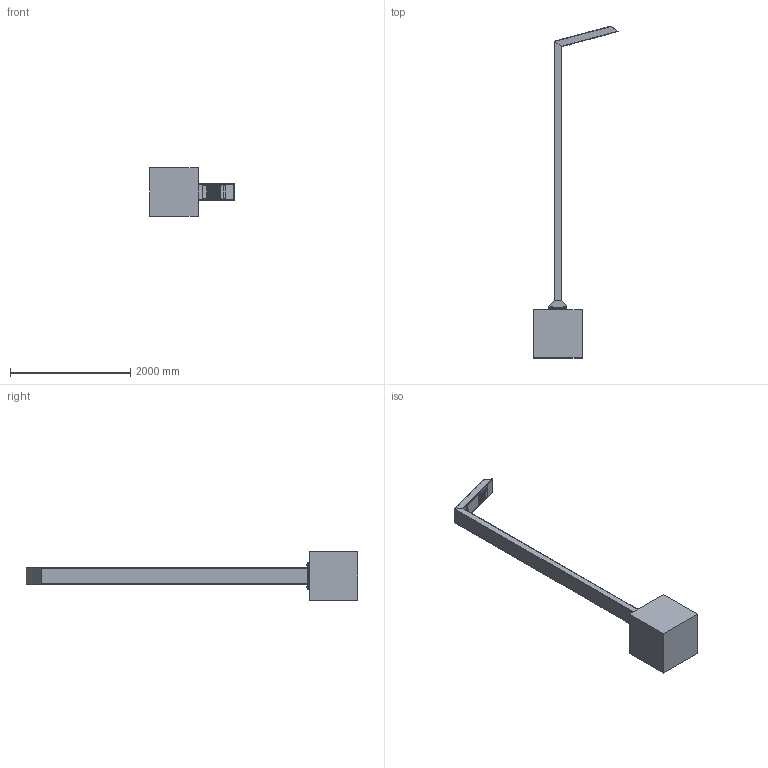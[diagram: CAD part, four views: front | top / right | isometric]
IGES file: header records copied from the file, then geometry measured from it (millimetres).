
Start section: SolidWorks IGES file using analytic representation for surfaces
Global section: file name: C:\SANTACOLE_PDM\Proyectos Catálogo\PROD-P12-023 -- 108 LED\6_Técnico comercial\3D WEB\farola 108 470cm LED.IGS; native system: SolidWorks 2013; preprocessor: SolidWorks 2013; author: jordi.munoz; date: 150723.125135; units: millimetre
Bounding box: 1399.81 x 5519.03 x 800 mm (x, y, z)
Surface area: 13679205.8 mm2 (no closed solid volume)
Topology: 0 solids, 0 shells, 1720 faces, 16154 edges, 16154 vertices
Faces by surface type: bspline 1134, revolution 586
